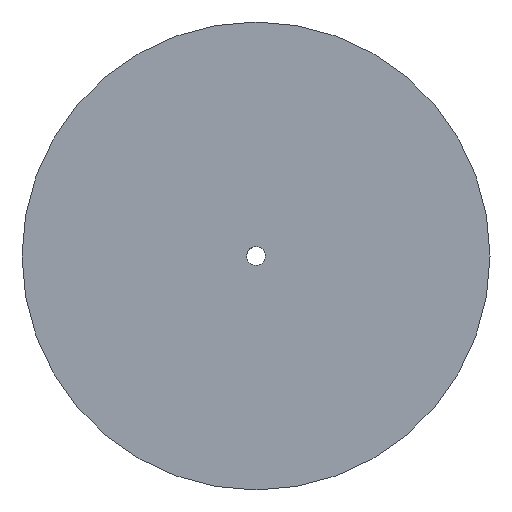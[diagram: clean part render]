
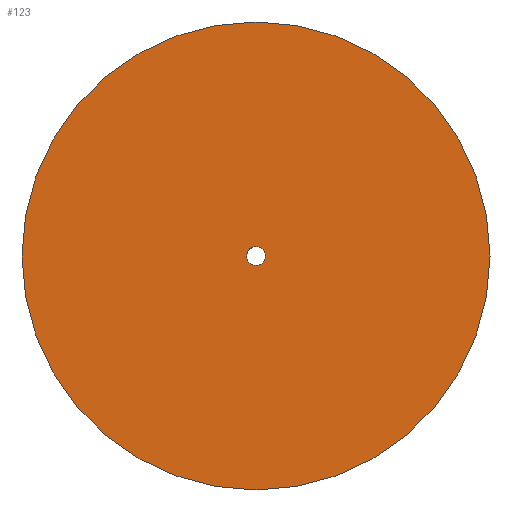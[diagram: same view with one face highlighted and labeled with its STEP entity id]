
A CAD part, top view. The second image highlights one B-rep face of the part: STEP entity #123.
In plain terms, the highlighted planar face has unit normal (0, 0, 1).
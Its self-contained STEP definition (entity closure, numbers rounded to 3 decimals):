
#62=CARTESIAN_POINT('Vertex',(-2.852,1.558,0.)) ;
#76=CARTESIAN_POINT('Vertex',(2.852,-1.558,0.)) ;
#79=CARTESIAN_POINT('Axis2P3D Location',(0.,0.,0.)) ;
#91=CARTESIAN_POINT('Axis2P3D Location',(0.,0.,0.)) ;
#96=CARTESIAN_POINT('Axis2P3D Location',(0.,0.,0.)) ;
#100=CARTESIAN_POINT('Vertex',(81.,0.,0.)) ;
#102=CARTESIAN_POINT('Vertex',(-81.,0.,0.)) ;
#105=CARTESIAN_POINT('Axis2P3D Location',(0.,0.,0.)) ;
#114=CARTESIAN_POINT('Axis2P3D Location',(0.,0.,0.)) ;
#80=DIRECTION('Axis2P3D Direction',(0.,-0.,-1.)) ;
#92=DIRECTION('Axis2P3D Direction',(0.,0.,1.)) ;
#93=DIRECTION('Axis2P3D XDirection',(1.,0.,0.)) ;
#97=DIRECTION('Axis2P3D Direction',(0.,0.,1.)) ;
#106=DIRECTION('Axis2P3D Direction',(0.,0.,1.)) ;
#115=DIRECTION('Axis2P3D Direction',(0.,0.,1.)) ;
#81=AXIS2_PLACEMENT_3D('Circle Axis2P3D',#79,#80,$) ;
#94=AXIS2_PLACEMENT_3D('Plane Axis2P3D',#91,#92,#93) ;
#98=AXIS2_PLACEMENT_3D('Circle Axis2P3D',#96,#97,$) ;
#107=AXIS2_PLACEMENT_3D('Circle Axis2P3D',#105,#106,$) ;
#116=AXIS2_PLACEMENT_3D('Circle Axis2P3D',#114,#115,$) ;
#111=ORIENTED_EDGE('',*,*,#104,.F.) ;
#112=ORIENTED_EDGE('',*,*,#109,.F.) ;
#120=ORIENTED_EDGE('',*,*,#118,.F.) ;
#121=ORIENTED_EDGE('',*,*,#83,.F.) ;
#122=FACE_BOUND('',#119,.T.) ;
#123=ADVANCED_FACE('PartBody',(#113,#122),#95,.T.) ;
#82=CIRCLE('generated circle',#81,3.25) ;
#99=CIRCLE('generated circle',#98,81.) ;
#108=CIRCLE('generated circle',#107,81.) ;
#117=CIRCLE('generated circle',#116,3.25) ;
#83=EDGE_CURVE('',#77,#63,#82,.F.) ;
#104=EDGE_CURVE('',#101,#103,#99,.F.) ;
#109=EDGE_CURVE('',#103,#101,#108,.F.) ;
#118=EDGE_CURVE('',#63,#77,#117,.T.) ;
#110=EDGE_LOOP('',(#111,#112)) ;
#119=EDGE_LOOP('',(#120,#121)) ;
#113=FACE_OUTER_BOUND('',#110,.T.) ;
#95=PLANE('',#94) ;
#63=VERTEX_POINT('',#62) ;
#77=VERTEX_POINT('',#76) ;
#101=VERTEX_POINT('',#100) ;
#103=VERTEX_POINT('',#102) ;
